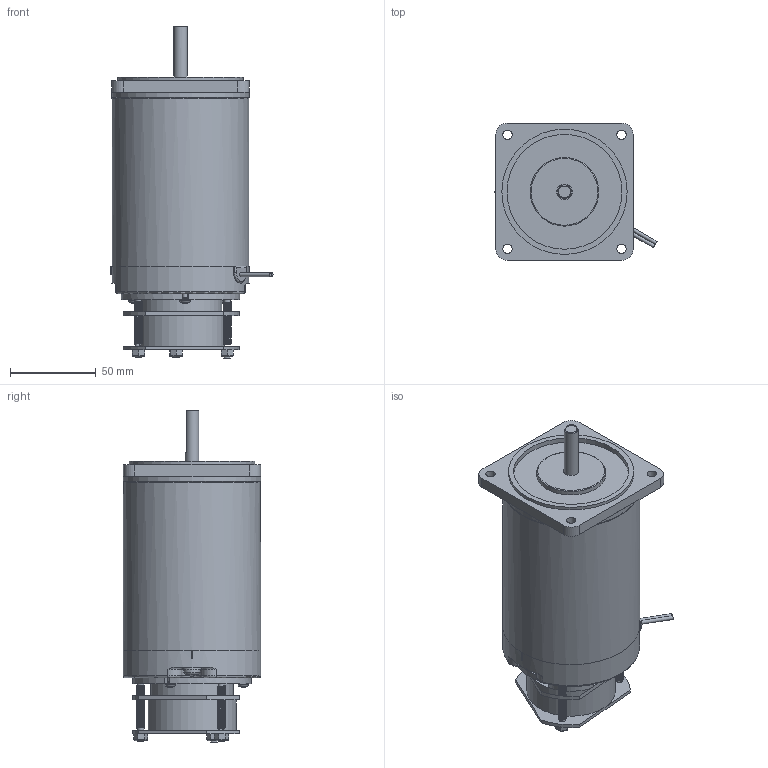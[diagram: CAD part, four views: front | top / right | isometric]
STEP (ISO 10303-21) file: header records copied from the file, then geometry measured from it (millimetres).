
FILE_DESCRIPTION((''),'2;1');
FILE_NAME('D:\yang\Yang cw\SPG 업무\2. DC MOTOR\7. DC MOTOR 브로슈어\ELECTRIC-BRAKE ASSEMBLY DC MOTOR\3D\STEP\S8D40-24A(OB85) D-CUT.stp','2015-03-10T13:46:29',('ycw1227'),(''),'Autodesk Inventor 2013','Autodesk Inventor 2013','');
FILE_SCHEMA(('AUTOMOTIVE_DESIGN { 1 0 10303 214 1 1 1 1 }'));
Length unit declared in the file: millimetre
Products named in the file (1): 부품15
Bounding box: 94.43 x 80 x 193.5 mm (x, y, z)
Volume: 698529.7 mm3; surface area: 66047.3 mm2
Topology: 1 solids, 6 shells, 445 faces, 1147 edges, 713 vertices
Faces by surface type: plane 177, cylinder 147, cone 62, torus 42, bspline 12, sphere 5
Full cylindrical faces by diameter (mm): 2.2 x2, 2.459 x3, 2.693 x3, 3 x3, 3.8 x21, 4.567 x2, 5 x2, 5.4 x2, 5.5 x4, 5.6 x2, 8 x3, 9 x1, 10 x1, 11 x2, 26 x2, 40 x1, 48 x1, 51.5 x1, 67 x1, 73 x1, 80 x3
Entity records: 30802 total; most frequent: CARTESIAN_POINT 21056, DIRECTION 1925, ORIENTED_EDGE 1860, EDGE_CURVE 930, AXIS2_PLACEMENT_3D 784, VERTEX_POINT 612, EDGE_LOOP 545, FACE_OUTER_BOUND 420
